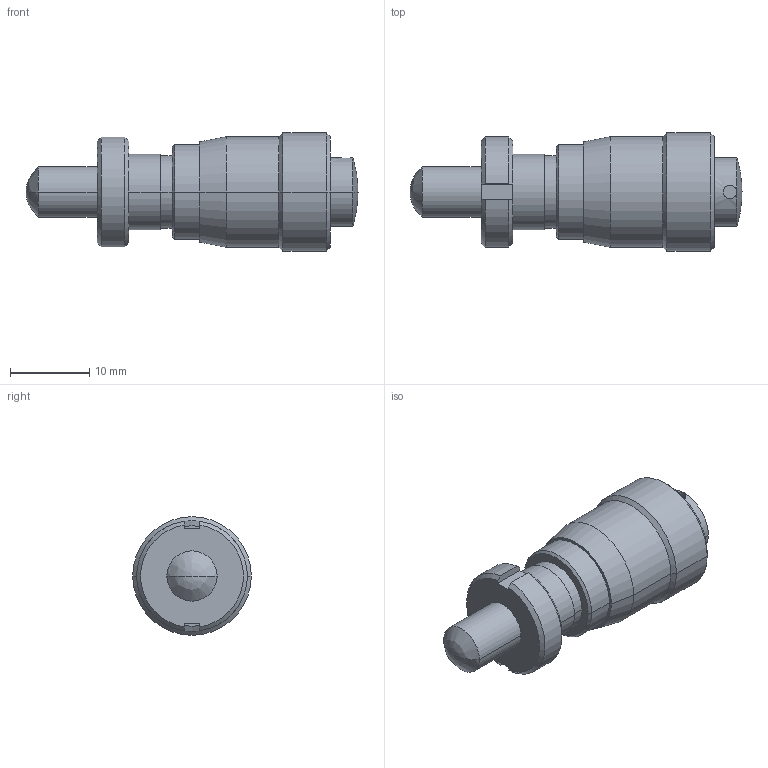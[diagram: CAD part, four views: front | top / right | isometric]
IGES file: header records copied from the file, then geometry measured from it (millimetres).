
Start section: Elysium IGES Interface
Global section: file name: 70HR:\01_商品設計部\01_MK外ﾃｰﾏ(U)\15_MH_3D\IGESﾌｧｲﾙ\148-314_MHC4-6.5C.igs; native system: Creo Elements/Direct Modeling 18.1B  29-Sep-2012; preprocessor: Creo Element/Direct IGES_3D V2.2; author: Unknown; organization: Unknown; date: 20140623.172144; units: millimetre
Bounding box: 42 x 15 x 15 mm (x, y, z)
Volume: 4452.5 mm3; surface area: 1905.4 mm2
Topology: 1 solids, 1 shells, 47 faces, 106 edges, 64 vertices
Faces by surface type: bspline 47
